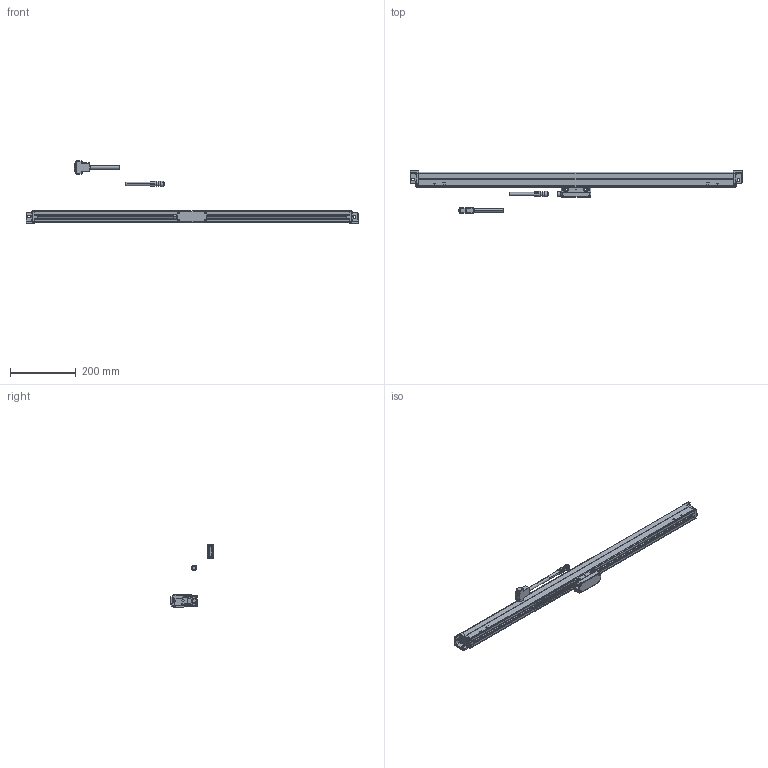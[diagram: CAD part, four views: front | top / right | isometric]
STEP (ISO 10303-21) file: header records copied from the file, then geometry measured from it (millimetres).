
FILE_DESCRIPTION(('Creo Elements/Direct Modeling STEP Export'),'2;1');
FILE_NAME('AT103_AT203-800.stp','2018-01-05T14:16:50',(''),(''),'Creo Elements/Direct Modeling STEP processor for AP214 (Solid Model)','Creo Elements/Direct Modeling 18.1B 29-Sep-2012 (C) Parametric Technology GmbH','');
FILE_SCHEMA(('AUTOMOTIVE_DESIGN { 1 0 10303 214 1 1 1 1 }'));
Length unit declared in the file: millimetre
Products named in the file (5): Cable.1; Scale_800; Cable; DetectorHead; AT103_203-800
Assembly tree (4 placements, depth 2):
  AT103_203-800
    DetectorHead
    Cable
    Scale_800
    Cable.1
Bounding box: 1008 x 129 x 190.1 mm (x, y, z)
Volume: 1598574 mm3; surface area: 224033 mm2
Topology: 4 solids, 8 shells, 1072 faces, 2655 edges, 1645 vertices
Faces by surface type: plane 603, cylinder 290, cone 80, torus 58, sphere 16, extrusion 16, bspline 5, revolution 4
Entity records: 33826 total; most frequent: CARTESIAN_POINT 6553, ORIENTED_EDGE 5276, DIRECTION 5000, EDGE_CURVE 2638, AXIS2_PLACEMENT_3D 1684, VERTEX_POINT 1645, VECTOR 1626, LINE 1620
